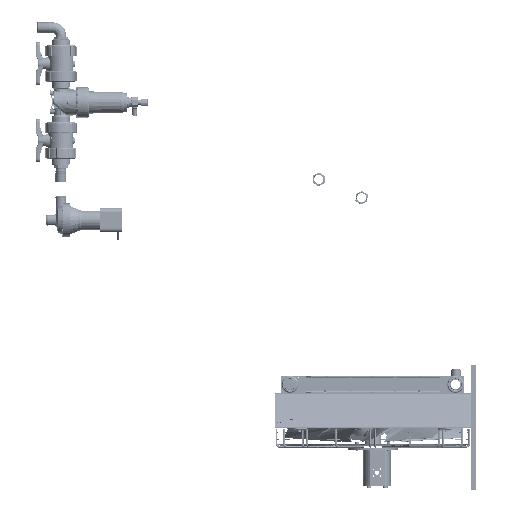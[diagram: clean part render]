
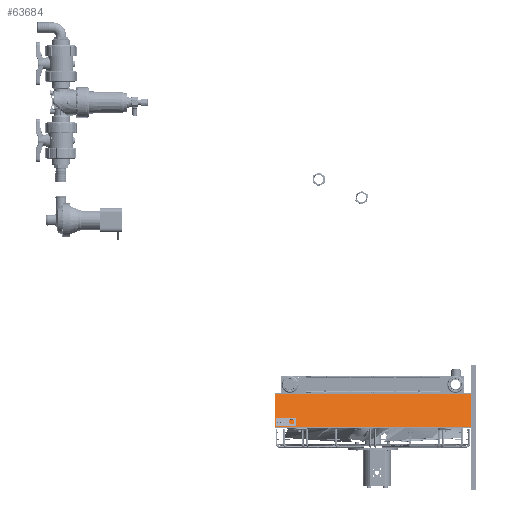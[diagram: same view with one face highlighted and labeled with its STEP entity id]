
A CAD part, front view. The second image highlights one B-rep face of the part: STEP entity #63684.
In plain terms, the highlighted planar face has unit normal (0, -0.918, 0.398).
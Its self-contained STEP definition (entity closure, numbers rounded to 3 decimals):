
#5860=CIRCLE('',#67689,5.5);
#9316=FACE_BOUND('',#14909,.T.);
#11537=FACE_OUTER_BOUND('',#14908,.T.);
#14908=EDGE_LOOP('',(#46075,#46076,#46077,#46078));
#14909=EDGE_LOOP('',(#46079));
#20602=LINE('',#91286,#24568);
#20636=LINE('',#91370,#24602);
#20639=LINE('',#91374,#24605);
#20640=LINE('',#91375,#24606);
#24568=VECTOR('',#75157,10.);
#24602=VECTOR('',#75219,10.);
#24605=VECTOR('',#75224,1000.);
#24606=VECTOR('',#75225,1000.);
#28321=VERTEX_POINT('',#91284);
#28322=VERTEX_POINT('',#91285);
#28357=VERTEX_POINT('',#91368);
#28358=VERTEX_POINT('',#91369);
#28359=VERTEX_POINT('',#91376);
#35343=EDGE_CURVE('',#28321,#28322,#20602,.T.);
#35385=EDGE_CURVE('',#28357,#28358,#20636,.T.);
#35388=EDGE_CURVE('',#28321,#28357,#20639,.T.);
#35389=EDGE_CURVE('',#28322,#28358,#20640,.T.);
#35390=EDGE_CURVE('',#28359,#28359,#5860,.T.);
#46075=ORIENTED_EDGE('',*,*,#35388,.T.);
#46076=ORIENTED_EDGE('',*,*,#35385,.T.);
#46077=ORIENTED_EDGE('',*,*,#35389,.F.);
#46078=ORIENTED_EDGE('',*,*,#35343,.F.);
#46079=ORIENTED_EDGE('',*,*,#35390,.T.);
#62186=PLANE('',#67688);
#63684=ADVANCED_FACE('',(#11537,#9316),#62186,.T.);
#67688=AXIS2_PLACEMENT_3D('',#91373,#75222,#75223);
#67689=AXIS2_PLACEMENT_3D('',#91377,#75226,#75227);
#75157=DIRECTION('',(-1.,0.,0.));
#75219=DIRECTION('',(-1.,0.,0.));
#75222=DIRECTION('center_axis',(0.,-0.918,0.398));
#75223=DIRECTION('ref_axis',(0.,0.398,0.918));
#75224=DIRECTION('',(0.,0.398,0.918));
#75225=DIRECTION('',(0.,0.398,0.918));
#75226=DIRECTION('center_axis',(0.,0.918,-0.398));
#75227=DIRECTION('ref_axis',(0.,-0.398,-0.918));
#91284=CARTESIAN_POINT('',(353.,-353.,-153.5));
#91285=CARTESIAN_POINT('',(-353.,-353.,-153.5));
#91286=CARTESIAN_POINT('',(353.,-353.,-153.5));
#91368=CARTESIAN_POINT('',(353.,-301.,-33.5));
#91369=CARTESIAN_POINT('',(-353.,-301.,-33.5));
#91370=CARTESIAN_POINT('',(353.,-301.,-33.5));
#91373=CARTESIAN_POINT('Origin',(0.,-297.194,-24.716));
#91374=CARTESIAN_POINT('',(353.,-353.,-153.5));
#91375=CARTESIAN_POINT('',(-353.,-353.,-153.5));
#91376=CARTESIAN_POINT('',(-338.,-343.014,-130.456));
#91377=CARTESIAN_POINT('Origin',(-338.,-345.201,-135.502));
